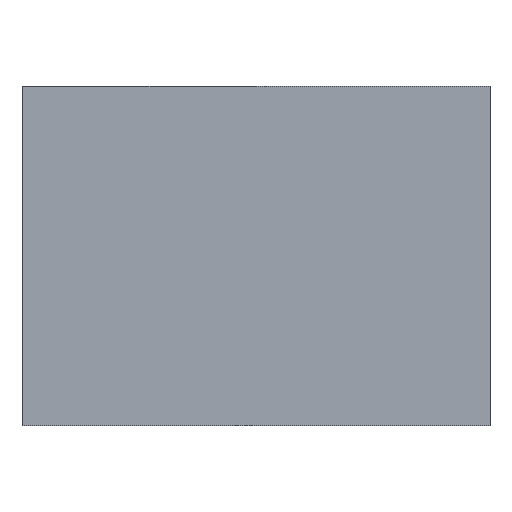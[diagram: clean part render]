
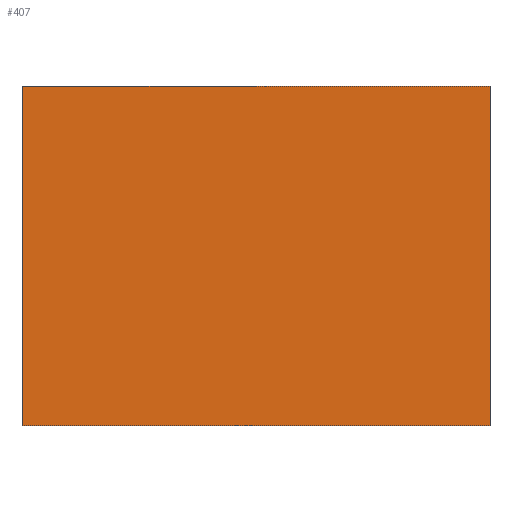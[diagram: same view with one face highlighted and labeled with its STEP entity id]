
A CAD part, front view. The second image highlights one B-rep face of the part: STEP entity #407.
In plain terms, the highlighted planar face has unit normal (0, -1, 0).
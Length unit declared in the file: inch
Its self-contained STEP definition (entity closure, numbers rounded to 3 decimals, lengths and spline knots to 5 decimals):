
#17 = VERTEX_POINT ( 'NONE', #241 ) ;
#80 = ORIENTED_EDGE ( 'NONE', *, *, #1540, .T. ) ;
#100 = VECTOR ( 'NONE', #1153, 39.37008 ) ;
#120 = EDGE_CURVE ( 'NONE', #1474, #17, #548, .T. ) ;
#204 = EDGE_LOOP ( 'NONE', ( #860, #1204, #80, #430 ) ) ;
#241 = CARTESIAN_POINT ( 'NONE',  ( -7.915, -4.7803, -5.74465 ) ) ;
#407 = ADVANCED_FACE ( 'NONE', ( #1580 ), #1469, .F. ) ;
#430 = ORIENTED_EDGE ( 'NONE', *, *, #687, .T. ) ;
#488 = EDGE_CURVE ( 'NONE', #17, #1412, #944, .T. ) ;
#489 = CARTESIAN_POINT ( 'NONE',  ( 7.915, -4.7803, 5.74465 ) ) ;
#548 = LINE ( 'NONE', #1040, #100 ) ;
#687 = EDGE_CURVE ( 'NONE', #1383, #1474, #796, .T. ) ;
#769 = CARTESIAN_POINT ( 'NONE',  ( -7.915, -4.7803, 5.74465 ) ) ;
#796 = LINE ( 'NONE', #1288, #1487 ) ;
#801 = CARTESIAN_POINT ( 'NONE',  ( 7.915, -4.7803, -5.74465 ) ) ;
#815 = CARTESIAN_POINT ( 'NONE',  ( -7.915, -4.7803, -5.74465 ) ) ;
#860 = ORIENTED_EDGE ( 'NONE', *, *, #120, .T. ) ;
#944 = LINE ( 'NONE', #815, #1279 ) ;
#1040 = CARTESIAN_POINT ( 'NONE',  ( -7.915, -4.7803, -5.74465 ) ) ;
#1060 = AXIS2_PLACEMENT_3D ( 'NONE', #1190, #1589, #1225 ) ;
#1082 = LINE ( 'NONE', #801, #1384 ) ;
#1093 = CARTESIAN_POINT ( 'NONE',  ( 7.915, -4.7803, -5.74465 ) ) ;
#1153 = DIRECTION ( 'NONE',  ( 0., 0., -1. ) ) ;
#1190 = CARTESIAN_POINT ( 'NONE',  ( -7.415, -4.7803, 5.24465 ) ) ;
#1204 = ORIENTED_EDGE ( 'NONE', *, *, #488, .T. ) ;
#1225 = DIRECTION ( 'NONE',  ( 0., 0., 1. ) ) ;
#1279 = VECTOR ( 'NONE', #1577, 39.37008 ) ;
#1288 = CARTESIAN_POINT ( 'NONE',  ( -7.915, -4.7803, 5.74465 ) ) ;
#1305 = DIRECTION ( 'NONE',  ( 0., 0., 1. ) ) ;
#1383 = VERTEX_POINT ( 'NONE', #489 ) ;
#1384 = VECTOR ( 'NONE', #1305, 39.37008 ) ;
#1412 = VERTEX_POINT ( 'NONE', #1093 ) ;
#1469 = PLANE ( 'NONE',  #1060 ) ;
#1474 = VERTEX_POINT ( 'NONE', #769 ) ;
#1487 = VECTOR ( 'NONE', #1551, 39.37008 ) ;
#1540 = EDGE_CURVE ( 'NONE', #1412, #1383, #1082, .T. ) ;
#1551 = DIRECTION ( 'NONE',  ( -1., 0., 0. ) ) ;
#1577 = DIRECTION ( 'NONE',  ( 1., 0., 0. ) ) ;
#1580 = FACE_OUTER_BOUND ( 'NONE', #204, .T. ) ;
#1589 = DIRECTION ( 'NONE',  ( 0., 1., 0. ) ) ;
